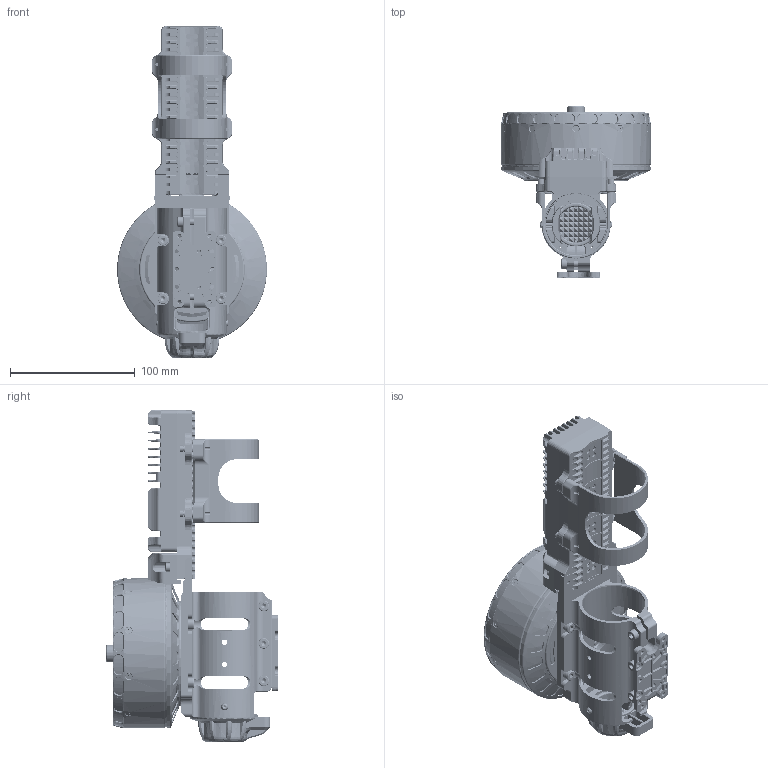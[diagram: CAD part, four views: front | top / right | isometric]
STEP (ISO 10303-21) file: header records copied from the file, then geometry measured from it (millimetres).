
FILE_DESCRIPTION (( 'STEP AP203' ), '1' );
FILE_NAME ('11122电机+HW5110电调 D50 一体动力套装.STEP', '2022-10-27T09:48:27', ( '' ), ( '' ), 'SwSTEP 2.0', 'SolidWorks 2021', '' );
FILE_SCHEMA (( 'CONFIG_CONTROL_DESIGN' ));
Products named in the file (1): 11122电机+HW5110电调 D50 一体动力套装
Bounding box: 120.1 x 137.1 x 266 mm (x, y, z)
Volume: 874546.9 mm3; surface area: 210051.6 mm2
Topology: 35 solids, 52 shells, 11526 faces, 31322 edges, 20068 vertices
Faces by surface type: plane 5877, cylinder 3616, bspline 1226, cone 731, torus 64, sphere 12
Entity records: 468509 total; most frequent: CARTESIAN_POINT 190904, ORIENTED_EDGE 62560, DIRECTION 51810, EDGE_CURVE 31280, VERTEX_POINT 20074, LINE 19284, VECTOR 19284, AXIS2_PLACEMENT_3D 16263
